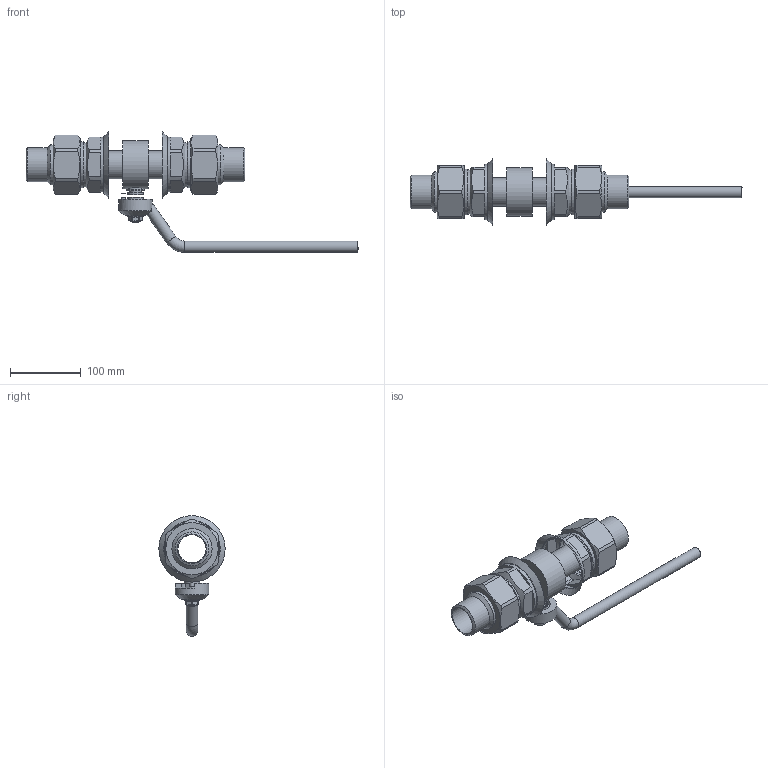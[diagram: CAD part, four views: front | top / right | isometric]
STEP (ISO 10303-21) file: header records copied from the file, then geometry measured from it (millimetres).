
FILE_DESCRIPTION(('STEP AP203'), '1');
FILE_NAME('ZARDP 040.063.30.P.stp', '2013-12-06T07:17:57', ('User'), ('Computer'), 'ASCON STEP Converter 1.3', 'Kompas 3D', '');
FILE_SCHEMA(('CONFIG_CONTROL_DESIGN','SUPPORT_RESOURCE_SCHEMA'));
Length unit declared in the file: millimetre
Products named in the file (1): 146
Bounding box: 470.01 x 94 x 171 mm (x, y, z)
Surface area: 181733 mm2
Topology: 6 solids, 7 shells, 242 faces, 553 edges, 350 vertices
Faces by surface type: plane 121, cylinder 74, cone 37, torus 8, sphere 2
Full cylindrical faces by diameter (mm): 6 x2, 10 x2, 16 x3, 16.1 x1, 21.8 x1, 22 x2, 24.3 x1, 24.5 x1, 40 x4, 48 x3, 55 x2, 57 x2, 62.5 x2, 62.8 x2, 63.376 x2, 65 x2, 68.4 x1, 78 x2, 94 x1
Entity records: 9967 total; most frequent: CARTESIAN_POINT 4368, DIRECTION 1189, ORIENTED_EDGE 1104, EDGE_CURVE 553, AXIS2_PLACEMENT_3D 472, VERTEX_POINT 350, EDGE_LOOP 276, LINE 245
